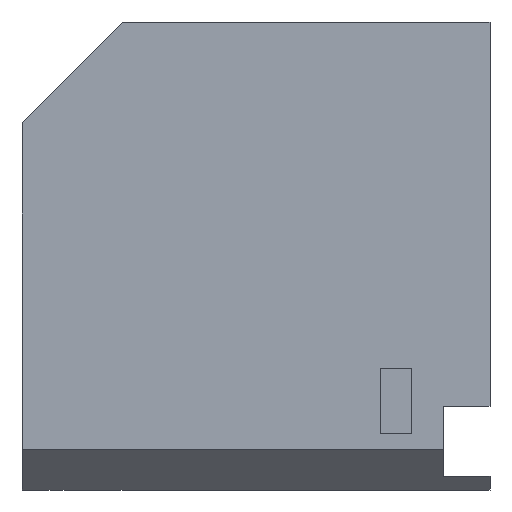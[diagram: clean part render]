
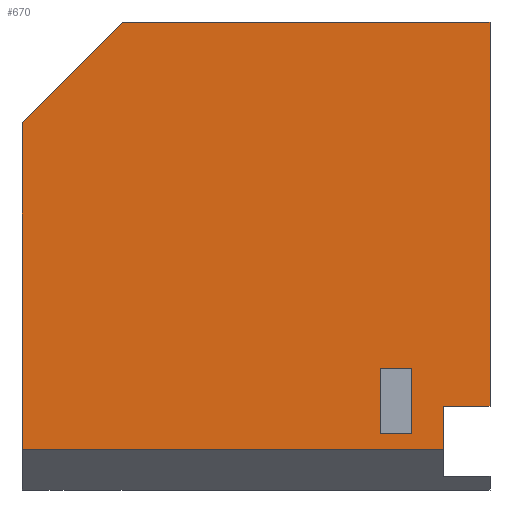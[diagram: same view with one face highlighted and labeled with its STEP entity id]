
A CAD part, left-side view. The second image highlights one B-rep face of the part: STEP entity #670.
In plain terms, the highlighted planar face has unit normal (-1, 0, 0).
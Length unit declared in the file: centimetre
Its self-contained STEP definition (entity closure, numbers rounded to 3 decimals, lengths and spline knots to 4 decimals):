
#10 = LINE ( 'NONE', #541, #863 ) ;
#32 = EDGE_CURVE ( 'NONE', #101, #981, #405, .T. ) ;
#37 = EDGE_LOOP ( 'NONE', ( #449, #632, #526, #613 ) ) ;
#55 = CARTESIAN_POINT ( 'NONE',  ( 0., 1000., 86.7578 ) ) ;
#56 = CARTESIAN_POINT ( 'NONE',  ( 0., 0., 1000. ) ) ;
#72 = CARTESIAN_POINT ( 'NONE',  ( 0., 167.068, 121.3408 ) ) ;
#76 = DIRECTION ( 'NONE',  ( 0., 0., -1. ) ) ;
#101 = VERTEX_POINT ( 'NONE', #994 ) ;
#135 = EDGE_CURVE ( 'NONE', #637, #879, #398, .T. ) ;
#144 = DIRECTION ( 'NONE',  ( 0., 0., -1. ) ) ;
#168 = VECTOR ( 'NONE', #319, 100. ) ;
#170 = CARTESIAN_POINT ( 'NONE',  ( 0., 784.514, 1000. ) ) ;
#225 = AXIS2_PLACEMENT_3D ( 'NONE', #745, #1097, #750 ) ;
#232 = VERTEX_POINT ( 'NONE', #756 ) ;
#237 = EDGE_CURVE ( 'NONE', #232, #736, #587, .T. ) ;
#238 = DIRECTION ( 'NONE',  ( 0., 0.707, -0.707 ) ) ;
#257 = DIRECTION ( 'NONE',  ( 0., 0., 1. ) ) ;
#273 = VECTOR ( 'NONE', #1013, 100. ) ;
#292 = CARTESIAN_POINT ( 'NONE',  ( 0., 167.068, 260.3825 ) ) ;
#319 = DIRECTION ( 'NONE',  ( 0., 0., -1. ) ) ;
#322 = LINE ( 'NONE', #512, #273 ) ;
#326 = VECTOR ( 'NONE', #144, 100. ) ;
#345 = VECTOR ( 'NONE', #257, 100. ) ;
#366 = EDGE_CURVE ( 'NONE', #915, #232, #322, .T. ) ;
#382 = VECTOR ( 'NONE', #826, 100. ) ;
#387 = VECTOR ( 'NONE', #927, 100. ) ;
#390 = FACE_OUTER_BOUND ( 'NONE', #486, .T. ) ;
#398 = LINE ( 'NONE', #743, #1096 ) ;
#400 = PLANE ( 'NONE',  #225 ) ;
#402 = CARTESIAN_POINT ( 'NONE',  ( 0., 100.0132, 86.7578 ) ) ;
#405 = LINE ( 'NONE', #55, #382 ) ;
#449 = ORIENTED_EDGE ( 'NONE', *, *, #237, .F. ) ;
#461 = CARTESIAN_POINT ( 'NONE',  ( 0., 234.4559, 260.3825 ) ) ;
#470 = FACE_BOUND ( 'NONE', #37, .T. ) ;
#478 = VERTEX_POINT ( 'NONE', #608 ) ;
#486 = EDGE_LOOP ( 'NONE', ( #732, #905, #783, #800, #1069, #1101, #620 ) ) ;
#503 = LINE ( 'NONE', #170, #870 ) ;
#507 = DIRECTION ( 'NONE',  ( 0., -1., 0. ) ) ;
#512 = CARTESIAN_POINT ( 'NONE',  ( 0., 167.068, 121.3408 ) ) ;
#526 = ORIENTED_EDGE ( 'NONE', *, *, #599, .F. ) ;
#541 = CARTESIAN_POINT ( 'NONE',  ( 0., 167.068, 260.3825 ) ) ;
#549 = VECTOR ( 'NONE', #76, 100. ) ;
#565 = CARTESIAN_POINT ( 'NONE',  ( 0., 100.0132, 178.6615 ) ) ;
#584 = LINE ( 'NONE', #935, #387 ) ;
#587 = LINE ( 'NONE', #72, #345 ) ;
#591 = CARTESIAN_POINT ( 'NONE',  ( 0., 100.0132, 29.4174 ) ) ;
#598 = CARTESIAN_POINT ( 'NONE',  ( 0., 1000., 1000. ) ) ;
#599 = EDGE_CURVE ( 'NONE', #809, #915, #912, .T. ) ;
#608 = CARTESIAN_POINT ( 'NONE',  ( 0., 1000., 784.514 ) ) ;
#613 = ORIENTED_EDGE ( 'NONE', *, *, #755, .F. ) ;
#614 = VERTEX_POINT ( 'NONE', #1089 ) ;
#620 = ORIENTED_EDGE ( 'NONE', *, *, #1057, .T. ) ;
#632 = ORIENTED_EDGE ( 'NONE', *, *, #366, .F. ) ;
#637 = VERTEX_POINT ( 'NONE', #1004 ) ;
#648 = CARTESIAN_POINT ( 'NONE',  ( 0., 234.4559, 121.3408 ) ) ;
#670 = ADVANCED_FACE ( 'NONE', ( #470, #390 ), #400, .F. ) ;
#732 = ORIENTED_EDGE ( 'NONE', *, *, #32, .T. ) ;
#733 = LINE ( 'NONE', #56, #326 ) ;
#736 = VERTEX_POINT ( 'NONE', #292 ) ;
#743 = CARTESIAN_POINT ( 'NONE',  ( 0., 0., 178.6615 ) ) ;
#745 = CARTESIAN_POINT ( 'NONE',  ( 0., 1000., 1000. ) ) ;
#750 = DIRECTION ( 'NONE',  ( 0., 0., -1. ) ) ;
#755 = EDGE_CURVE ( 'NONE', #736, #809, #10, .T. ) ;
#756 = CARTESIAN_POINT ( 'NONE',  ( 0., 167.068, 121.3408 ) ) ;
#783 = ORIENTED_EDGE ( 'NONE', *, *, #135, .F. ) ;
#800 = ORIENTED_EDGE ( 'NONE', *, *, #947, .F. ) ;
#809 = VERTEX_POINT ( 'NONE', #461 ) ;
#821 = CARTESIAN_POINT ( 'NONE',  ( 0., 234.4559, 121.3408 ) ) ;
#826 = DIRECTION ( 'NONE',  ( 0., -1., 0. ) ) ;
#828 = CARTESIAN_POINT ( 'NONE',  ( 0., 0., 1000. ) ) ;
#850 = LINE ( 'NONE', #598, #1032 ) ;
#863 = VECTOR ( 'NONE', #1062, 100. ) ;
#867 = VERTEX_POINT ( 'NONE', #828 ) ;
#870 = VECTOR ( 'NONE', #238, 100. ) ;
#879 = VERTEX_POINT ( 'NONE', #565 ) ;
#905 = ORIENTED_EDGE ( 'NONE', *, *, #1002, .F. ) ;
#912 = LINE ( 'NONE', #648, #168 ) ;
#915 = VERTEX_POINT ( 'NONE', #821 ) ;
#927 = DIRECTION ( 'NONE',  ( 0., 0., -1. ) ) ;
#935 = CARTESIAN_POINT ( 'NONE',  ( 0., 1000., 1000. ) ) ;
#947 = EDGE_CURVE ( 'NONE', #867, #637, #733, .T. ) ;
#981 = VERTEX_POINT ( 'NONE', #402 ) ;
#994 = CARTESIAN_POINT ( 'NONE',  ( 0., 1000., 86.7578 ) ) ;
#1002 = EDGE_CURVE ( 'NONE', #879, #981, #1022, .T. ) ;
#1004 = CARTESIAN_POINT ( 'NONE',  ( 0., 0., 178.6615 ) ) ;
#1013 = DIRECTION ( 'NONE',  ( 0., -1., 0. ) ) ;
#1022 = LINE ( 'NONE', #591, #549 ) ;
#1032 = VECTOR ( 'NONE', #507, 100. ) ;
#1037 = EDGE_CURVE ( 'NONE', #614, #478, #503, .T. ) ;
#1057 = EDGE_CURVE ( 'NONE', #478, #101, #584, .T. ) ;
#1062 = DIRECTION ( 'NONE',  ( 0., 1., 0. ) ) ;
#1069 = ORIENTED_EDGE ( 'NONE', *, *, #1095, .F. ) ;
#1089 = CARTESIAN_POINT ( 'NONE',  ( 0., 784.514, 1000. ) ) ;
#1092 = DIRECTION ( 'NONE',  ( 0., 1., 0. ) ) ;
#1095 = EDGE_CURVE ( 'NONE', #614, #867, #850, .T. ) ;
#1096 = VECTOR ( 'NONE', #1092, 100. ) ;
#1097 = DIRECTION ( 'NONE',  ( 1., 0., 0. ) ) ;
#1101 = ORIENTED_EDGE ( 'NONE', *, *, #1037, .T. ) ;
